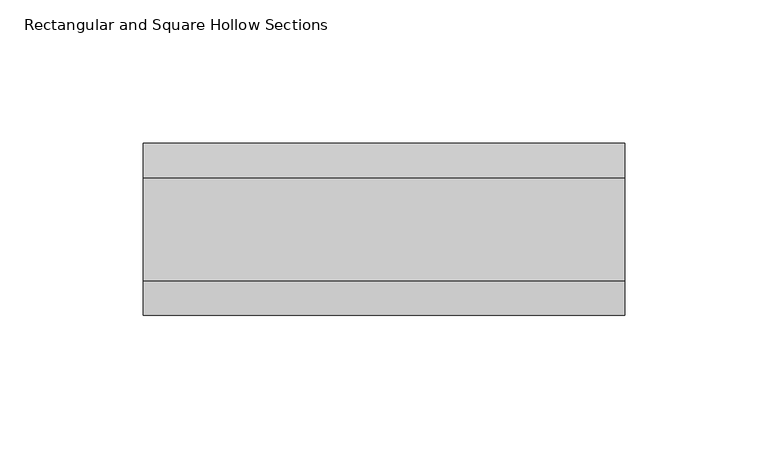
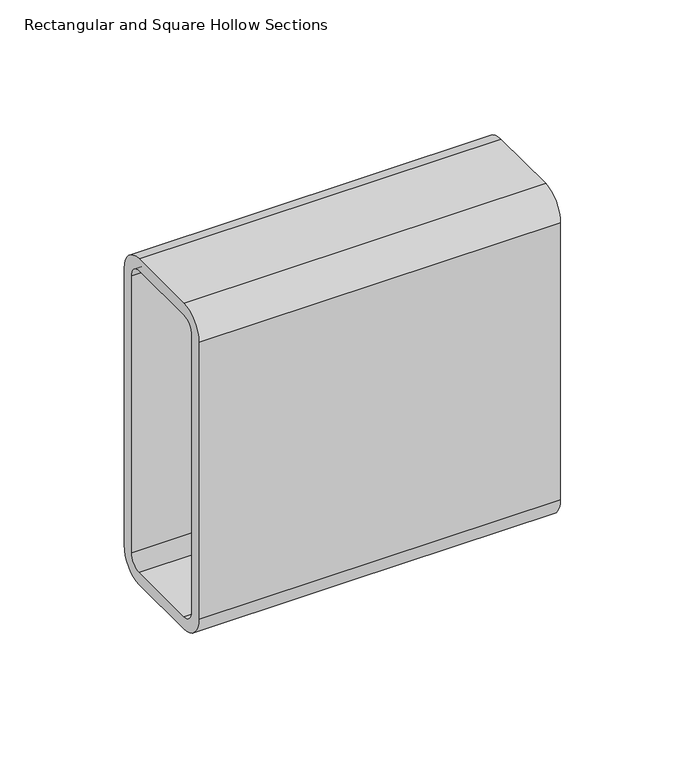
"""IFC4 building model written with IfcOpenShell, lengths in millimetres: beam geometry, Rectangular and Square Hollow Sections : TREC160x60x6."""

from ifc_helpers import new_model, si_unit, point, frame, frame_2d, origin, place, context, project, spatial, polyline, circle_curve, trimmed, segment, composite_curve, outline, extrude, source, transform, mapped, element, save


def rectangular_and_square_hollow_sections_0260aec8(model_context):
    return source(origin(), model_context, "Body", "SweptSolid", [
        extrude(outline(composite_curve([segment(polyline([(30.0, 68.0), (30.0, -68.0)]), True, "CONTINUOUS"), segment(trimmed(circle_curve(frame_2d((18.0, -68.0)), 12.0), [point((30.0, -68.0))], [point((18.0, -80.0))], False, "CARTESIAN"), True, "CONTINUOUS"), segment(polyline([(18.0, -80.0), (-18.0, -80.0)]), True, "CONTINUOUS"), segment(trimmed(circle_curve(frame_2d((-18.0, -68.0)), 12.0), [point((-18.0, -80.0))], [point((-30.0, -68.0))], False, "CARTESIAN"), True, "CONTINUOUS"), segment(polyline([(-30.0, -68.0), (-30.0, 68.0)]), True, "CONTINUOUS"), segment(trimmed(circle_curve(frame_2d((-18.0, 68.0)), 12.0), [point((-30.0, 68.0))], [point((-18.0, 80.0))], False, "CARTESIAN"), True, "CONTINUOUS"), segment(polyline([(-18.0, 80.0), (18.0, 80.0)]), True, "CONTINUOUS"), segment(trimmed(circle_curve(frame_2d((18.0, 68.0)), 12.0), [point((18.0, 80.0))], [point((30.0, 68.0))], False, "CARTESIAN"), True, "CONTINUOUS")], self_intersect=False), holes=[composite_curve([segment(trimmed(circle_curve(frame_2d((-18.0, 68.0)), 6.0), [point((-18.0, 74.0))], [point((-24.0, 68.0))], True, "CARTESIAN"), True, "CONTINUOUS"), segment(polyline([(-24.0, 68.0), (-24.0, -68.0)]), True, "CONTINUOUS"), segment(trimmed(circle_curve(frame_2d((-18.0, -68.0)), 6.0), [point((-24.0, -68.0))], [point((-18.0, -74.0))], True, "CARTESIAN"), True, "CONTINUOUS"), segment(polyline([(-18.0, -74.0), (18.0, -74.0)]), True, "CONTINUOUS"), segment(trimmed(circle_curve(frame_2d((18.0, -68.0)), 6.0), [point((18.0, -74.0))], [point((24.0, -68.0))], True, "CARTESIAN"), True, "CONTINUOUS"), segment(polyline([(24.0, -68.0), (24.0, 68.0)]), True, "CONTINUOUS"), segment(trimmed(circle_curve(frame_2d((18.0, 68.0)), 6.0), [point((24.0, 68.0))], [point((18.0, 74.0))], True, "CARTESIAN"), True, "CONTINUOUS"), segment(polyline([(18.0, 74.0), (-18.0, 74.0)]), True, "CONTINUOUS")], self_intersect=False)]), frame((-90.537112, 0.0, 0.0), z_axis=(1.0, 0.0, 0.0), x_axis=(0.0, 1.0, 0.0)), (0.0, 0.0, 1.0), 168.037112),
    ])


if __name__ == "__main__":
    model = new_model("IFC4")
    model_context = context("Model", 3, world=origin())
    ifc_project = project(units=[si_unit("LENGTHUNIT", "METRE", prefix="MILLI")], contexts=[model_context])
    site = spatial("IfcSite", under=ifc_project)
    building = spatial("IfcBuilding", under=site)
    placement = place(None, origin())
    rectangular_and_square_hollow_sections_shape = rectangular_and_square_hollow_sections_0260aec8(model_context)
    element("IfcBeam", 1, ObjectType="Rectangular and Square Hollow Sections : TREC160x60x6", at=placement, inside=building, context=model_context, shape_type="MappedRepresentation", body=[
        mapped(rectangular_and_square_hollow_sections_shape, transform((0.0, 0.0, 0.0), x_axis=(1.0, 0.0, 0.0), y_axis=(0.0, 1.0, 0.0), z_axis=(0.0, 0.0, 1.0))),
    ])
    save(model, "model.ifc")
